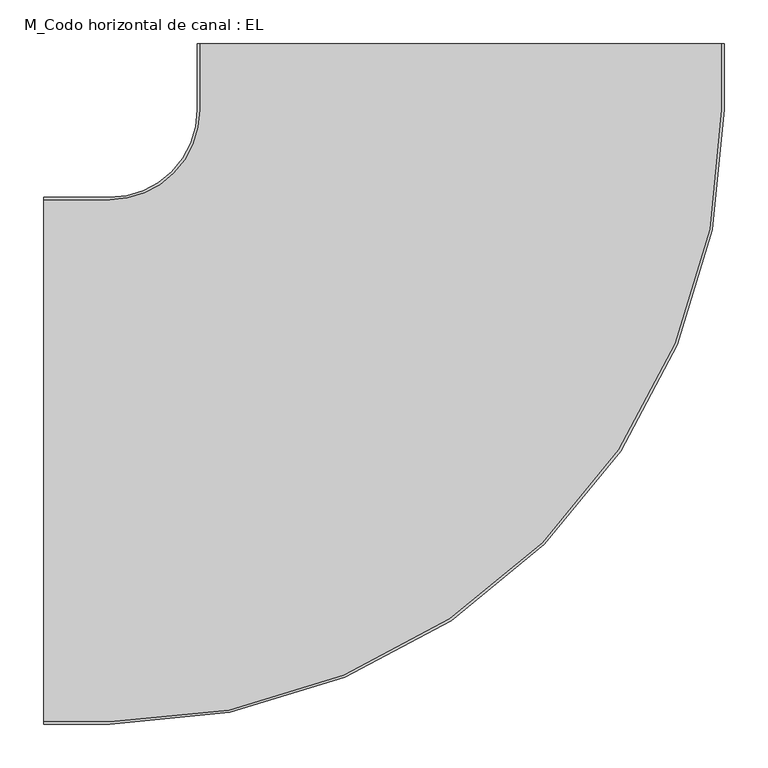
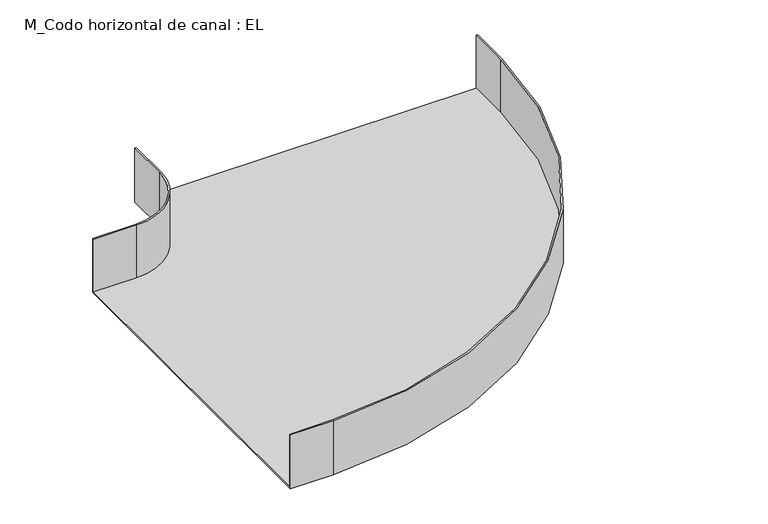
"""IFC4 building model written with IfcOpenShell, lengths in millimetres: cable carrier fitting geometry, M_Codo horizontal de canal : EL."""

from ifc_helpers import new_model, si_unit, frame, origin, place, context, project, spatial, polyline, circle_curve, source, transform, mapped, element, save
from ifc_brep_helpers import plane_surface, cylinder_surface, revolved_surface, advanced_brep


def m_codo_horizontal_de_canal_el_e565bebe(model_context):
    return source(origin(), model_context, "Body", "AdvancedBrep", [
        advanced_brep(
        [(-475.0, -300.0, -50.0), (-475.0, -300.0, 50.0), (-475.0, -297.46, 50.0), (-475.0, -297.46, -47.46), (-475.0, 297.46, -47.46), (-475.0, 297.46, 50.0), (-475.0, 300.0, 50.0), (-475.0, 300.0, -50.0), (300.0, 475.0, -50.0), (-300.0, 475.0, -50.0), (-300.0, 475.0, 50.0), (-297.46, 475.0, 50.0), (-297.46, 475.0, -47.46), (297.46, 475.0, -47.46), (297.46, 475.0, 50.0), (300.0, 475.0, 50.0), (-400.0, -300.0, -50.0), (-400.0, -300.0, 50.0), (300.0, 400.0, 50.0), (297.46, 400.0, 50.0), (-400.0, -297.46, 50.0), (-400.0, -297.46, -47.46), (297.46, 400.0, -47.46), (-297.46, 400.0, -47.46), (-400.0, 297.46, -47.46), (-400.0, 297.46, 50.0), (-297.46, 400.0, 50.0), (-300.0, 400.0, 50.0), (-400.0, 300.0, 50.0), (-400.0, 300.0, -50.0), (-300.0, 400.0, -50.0), (300.0, 400.0, -50.0)],
        [
            (0, 1),
            (1, 2),
            (2, 3),
            (3, 4),
            (4, 5),
            (5, 6),
            (6, 7),
            (7, 0),
            (8, 9),
            (9, 10),
            (10, 11),
            (11, 12),
            (12, 13),
            (13, 14),
            (14, 15),
            (15, 8),
            (0, 16),
            (16, 17),
            (17, 1),
            (17, 18, circle_curve(frame((-400.0, 400.0, 50.0), z_axis=(0.0, 0.0, 1.0), x_axis=(0.0, -1.0, 0.0)), 700.0)),
            (18, 15),
            (14, 19),
            (19, 20, circle_curve(frame((-400.0, 400.0, 50.0), z_axis=(0.0, 0.0, -1.0), x_axis=(0.0, -1.0, 0.0)), 697.46)),
            (20, 2),
            (20, 21),
            (21, 3),
            (21, 22, circle_curve(frame((-400.0, 400.0, -47.46), z_axis=(0.0, 0.0, 1.0), x_axis=(0.0, -1.0, 0.0)), 697.46)),
            (22, 13),
            (12, 23),
            (23, 24, circle_curve(frame((-400.0, 400.0, -47.46), z_axis=(0.0, 0.0, -1.0), x_axis=(0.0, -1.0, 0.0)), 102.54)),
            (24, 4),
            (24, 25),
            (25, 5),
            (25, 26, circle_curve(frame((-400.0, 400.0, 50.0), z_axis=(0.0, 0.0, 1.0), x_axis=(0.0, -1.0, 0.0)), 102.54)),
            (26, 11),
            (10, 27),
            (27, 28, circle_curve(frame((-400.0, 400.0, 50.0), z_axis=(0.0, 0.0, -1.0), x_axis=(0.0, -1.0, 0.0)), 100.0)),
            (28, 6),
            (28, 29),
            (29, 7),
            (29, 30, circle_curve(frame((-400.0, 400.0, -50.0), z_axis=(0.0, 0.0, 1.0), x_axis=(0.0, -1.0, 0.0)), 100.0)),
            (30, 9),
            (8, 31),
            (31, 16, circle_curve(frame((-400.0, 400.0, -50.0), z_axis=(0.0, 0.0, -1.0), x_axis=(0.0, -1.0, 0.0)), 700.0)),
            (31, 18),
            (19, 22),
            (23, 26),
            (27, 30),
        ],
        [
            plane_surface(frame((-475.0, 0.0, 0.0), z_axis=(-1.0, 0.0, 0.0), x_axis=(0.0, 0.0, 1.0))),
            plane_surface(frame((0.0, 475.0, 0.0), z_axis=(0.0, 1.0, 0.0), x_axis=(0.0, 0.0, 1.0))),
            plane_surface(frame((-475.0, -300.0, -50.0), z_axis=(0.0, -1.0, 0.0), x_axis=(1.0, 0.0, 0.0))),
            plane_surface(frame((-475.0, -300.0, 50.0), z_axis=(0.0, 0.0, 1.0), x_axis=(1.0, 0.0, 0.0))),
            plane_surface(frame((-475.0, -297.46, 50.0), z_axis=(0.0, 1.0, 0.0), x_axis=(1.0, 0.0, 0.0))),
            plane_surface(frame((-475.0, -297.46, -47.46), z_axis=(0.0, 0.0, 1.0), x_axis=(1.0, 0.0, 0.0))),
            plane_surface(frame((-475.0, 297.46, -47.46), z_axis=(0.0, -1.0, 0.0), x_axis=(1.0, 0.0, 0.0))),
            plane_surface(frame((-475.0, 297.46, 50.0), z_axis=(0.0, 0.0, 1.0), x_axis=(1.0, 0.0, 0.0))),
            plane_surface(frame((-475.0, 300.0, 50.0), z_axis=(0.0, 1.0, 0.0), x_axis=(1.0, 0.0, 0.0))),
            plane_surface(frame((-475.0, 300.0, -50.0), z_axis=(0.0, 0.0, -1.0), x_axis=(1.0, 0.0, 0.0))),
            cylinder_surface(frame((-400.0, 400.0, 0.0), z_axis=(0.0, 0.0, 1.0), x_axis=(0.0, -1.0, 0.0)), 700.0),
            revolved_surface(polyline([(-400.0, -297.46000000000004, 50.0), (-400.0, -297.46000000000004, -47.46)]), (-400.0, 400.0, 0.0), (0.0, 0.0, 1.0)),
            cylinder_surface(frame((-400.0, 400.0, 0.0), z_axis=(0.0, 0.0, 1.0), x_axis=(0.0, -1.0, 0.0)), 102.54),
            revolved_surface(polyline([(-400.0, 300.0, 50.0), (-400.0, 300.0, -50.0)]), (-400.0, 400.0, 0.0), (0.0, 0.0, 1.0)),
            plane_surface(frame((300.0, 400.0, -50.0), z_axis=(1.0, 0.0, 0.0), x_axis=(0.0, 1.0, 0.0))),
            plane_surface(frame((297.46, 400.0, 50.0), z_axis=(-1.0, 0.0, 0.0), x_axis=(0.0, 1.0, 0.0))),
            plane_surface(frame((-297.46, 400.0, -47.46), z_axis=(1.0, 0.0, 0.0), x_axis=(0.0, 1.0, 0.0))),
            plane_surface(frame((-300.0, 400.0, 50.0), z_axis=(-1.0, 0.0, 0.0), x_axis=(0.0, 1.0, 0.0))),
        ],
        [
            (0, [[1, 2, 3, 4, 5, 6, 7, 8]]),
            (1, [[9, 10, 11, 12, 13, 14, 15, 16]]),
            (2, [[-1, 17, 18, 19]]),
            (3, [[-2, -19, 20, 21, -15, 22, 23, 24]]),
            (4, [[-3, -24, 25, 26]]),
            (5, [[-4, -26, 27, 28, -13, 29, 30, 31]]),
            (6, [[-5, -31, 32, 33]]),
            (7, [[-6, -33, 34, 35, -11, 36, 37, 38]]),
            (8, [[-7, -38, 39, 40]]),
            (9, [[-8, -40, 41, 42, -9, 43, 44, -17]]),
            (10, [[-20, -18, -44, 45]]),
            (11, [[-27, -25, -23, 46]]),
            (12, [[-34, -32, -30, 47]]),
            (13, [[-41, -39, -37, 48]]),
            (14, [[-45, -43, -16, -21]]),
            (15, [[-46, -22, -14, -28]]),
            (16, [[-47, -29, -12, -35]]),
            (17, [[-48, -36, -10, -42]]),
        ],
    ),
    ])


if __name__ == "__main__":
    model = new_model("IFC4")
    model_context = context("Model", 3, world=origin())
    ifc_project = project(units=[si_unit("LENGTHUNIT", "METRE", prefix="MILLI")], contexts=[model_context])
    site = spatial("IfcSite", under=ifc_project)
    building = spatial("IfcBuilding", under=site)
    placement = place(None, origin())
    m_codo_horizontal_de_canal_el_shape = m_codo_horizontal_de_canal_el_e565bebe(model_context)
    element("IfcCableCarrierFitting", 1, ObjectType="M_Codo horizontal de canal : EL", at=placement, inside=building, context=model_context, shape_type="MappedRepresentation", body=[
        mapped(m_codo_horizontal_de_canal_el_shape, transform((0.0, 0.0, 0.0), x_axis=(1.0, 0.0, 0.0), y_axis=(0.0, 1.0, 0.0), z_axis=(0.0, 0.0, 1.0))),
    ])
    save(model, "model.ifc")
